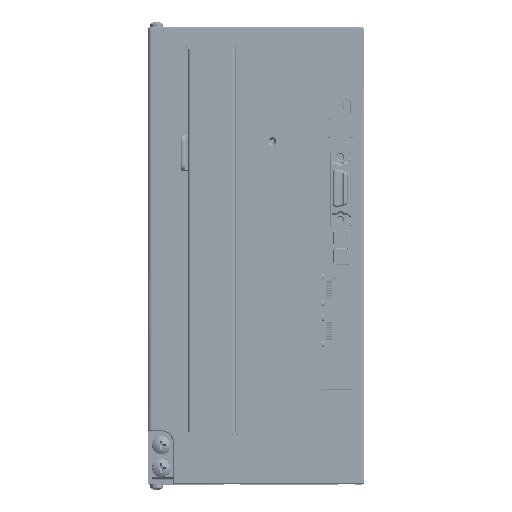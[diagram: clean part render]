
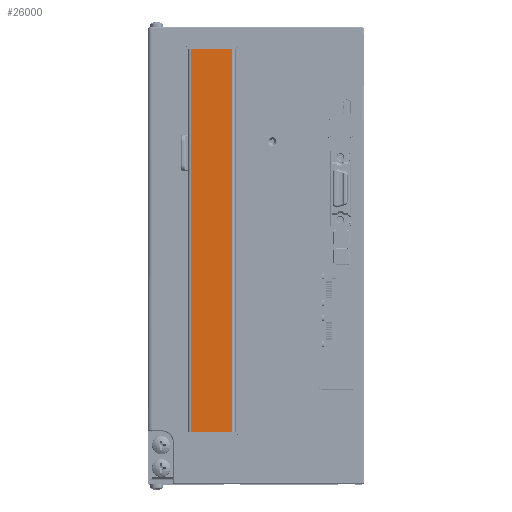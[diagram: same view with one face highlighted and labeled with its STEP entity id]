
A CAD part, top view. The second image highlights one B-rep face of the part: STEP entity #26000.
In plain terms, the highlighted planar face has unit normal (0, 0, 1).
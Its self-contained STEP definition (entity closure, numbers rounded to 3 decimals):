
#22040 = CARTESIAN_POINT ( 'NONE',  ( 58.444, 22.7, 14.7 ) ) ;
#23581 = LINE ( 'NONE', #65519, #337019 ) ;
#26000 = ADVANCED_FACE ( 'NONE', ( #299977 ), #326410, .F. ) ;
#51891 = EDGE_CURVE ( 'NONE', #373775, #76527, #23581, .T. ) ;
#60904 = EDGE_CURVE ( 'NONE', #194642, #373775, #241972, .T. ) ;
#62013 = CARTESIAN_POINT ( 'NONE',  ( 58.444, 190.3, 14.7 ) ) ;
#65519 = CARTESIAN_POINT ( 'NONE',  ( 58.444, 22.7, 14.7 ) ) ;
#76527 = VERTEX_POINT ( 'NONE', #399327 ) ;
#84926 = DIRECTION ( 'NONE',  ( 0., 0., -1. ) ) ;
#92023 = DIRECTION ( 'NONE',  ( 0., -1., 0. ) ) ;
#101959 = EDGE_CURVE ( 'NONE', #131629, #76527, #185715, .T. ) ;
#122421 = LINE ( 'NONE', #246207, #256723 ) ;
#131629 = VERTEX_POINT ( 'NONE', #257448 ) ;
#133258 = VECTOR ( 'NONE', #365729, 1000. ) ;
#147303 = DIRECTION ( 'NONE',  ( 0., 1., 0. ) ) ;
#153740 = ORIENTED_EDGE ( 'NONE', *, *, #101959, .T. ) ;
#163213 = DIRECTION ( 'NONE',  ( -1., 0., 0. ) ) ;
#165135 = CARTESIAN_POINT ( 'NONE',  ( 76.544, 22.7, 14.7 ) ) ;
#171668 = ORIENTED_EDGE ( 'NONE', *, *, #51891, .F. ) ;
#185715 = LINE ( 'NONE', #62013, #373442 ) ;
#194642 = VERTEX_POINT ( 'NONE', #165135 ) ;
#228403 = ORIENTED_EDGE ( 'NONE', *, *, #366478, .F. ) ;
#241972 = LINE ( 'NONE', #341322, #133258 ) ;
#246207 = CARTESIAN_POINT ( 'NONE',  ( 76.544, 22.7, 14.7 ) ) ;
#256723 = VECTOR ( 'NONE', #92023, 1000. ) ;
#257448 = CARTESIAN_POINT ( 'NONE',  ( 76.544, 190.3, 14.7 ) ) ;
#273641 = EDGE_LOOP ( 'NONE', ( #352659, #228403, #153740, #171668 ) ) ;
#293979 = DIRECTION ( 'NONE',  ( 1., 0., 0. ) ) ;
#299977 = FACE_OUTER_BOUND ( 'NONE', #273641, .T. ) ;
#307613 = AXIS2_PLACEMENT_3D ( 'NONE', #22040, #84926, #293979 ) ;
#326410 = PLANE ( 'NONE',  #307613 ) ;
#337019 = VECTOR ( 'NONE', #147303, 1000. ) ;
#341322 = CARTESIAN_POINT ( 'NONE',  ( 58.444, 22.7, 14.7 ) ) ;
#352659 = ORIENTED_EDGE ( 'NONE', *, *, #60904, .F. ) ;
#357603 = CARTESIAN_POINT ( 'NONE',  ( 58.444, 22.7, 14.7 ) ) ;
#365729 = DIRECTION ( 'NONE',  ( -1., 0., 0. ) ) ;
#366478 = EDGE_CURVE ( 'NONE', #131629, #194642, #122421, .T. ) ;
#373442 = VECTOR ( 'NONE', #163213, 1000. ) ;
#373775 = VERTEX_POINT ( 'NONE', #357603 ) ;
#399327 = CARTESIAN_POINT ( 'NONE',  ( 58.444, 190.3, 14.7 ) ) ;
